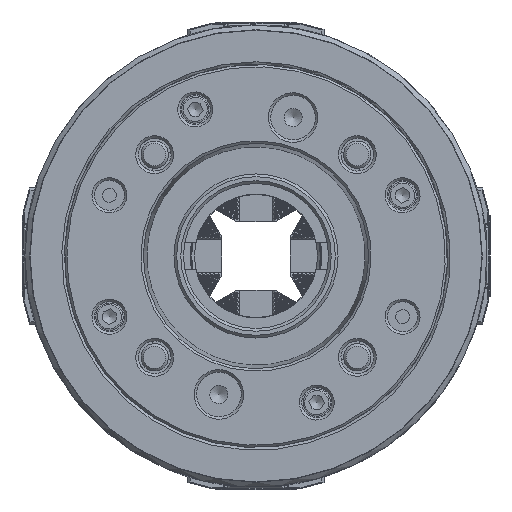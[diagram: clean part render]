
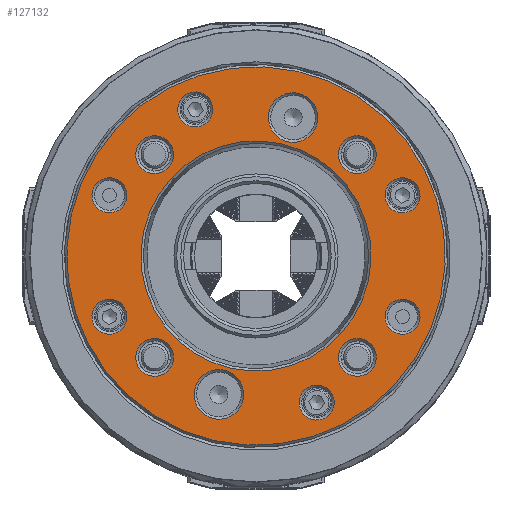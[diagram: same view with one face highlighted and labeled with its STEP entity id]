
A CAD part, front view. The second image highlights one B-rep face of the part: STEP entity #127132.
In plain terms, the highlighted planar face has unit normal (0, -1, 0).
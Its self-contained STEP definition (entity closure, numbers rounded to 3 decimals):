
#34828=PLANE('',#135431);
#37411=FACE_BOUND('',#46765,.T.);
#37412=FACE_BOUND('',#46766,.T.);
#37413=FACE_BOUND('',#46767,.T.);
#37414=FACE_BOUND('',#46768,.T.);
#37415=FACE_BOUND('',#46769,.T.);
#37416=FACE_BOUND('',#46770,.T.);
#37417=FACE_BOUND('',#46771,.T.);
#37418=FACE_BOUND('',#46772,.T.);
#37419=FACE_BOUND('',#46773,.T.);
#37420=FACE_BOUND('',#46774,.T.);
#37421=FACE_BOUND('',#46775,.T.);
#37422=FACE_BOUND('',#46776,.T.);
#37423=FACE_BOUND('',#46777,.T.);
#40354=FACE_OUTER_BOUND('',#46764,.T.);
#46764=EDGE_LOOP('',(#100680));
#46765=EDGE_LOOP('',(#100681));
#46766=EDGE_LOOP('',(#100682));
#46767=EDGE_LOOP('',(#100683));
#46768=EDGE_LOOP('',(#100684));
#46769=EDGE_LOOP('',(#100685));
#46770=EDGE_LOOP('',(#100686));
#46771=EDGE_LOOP('',(#100687));
#46772=EDGE_LOOP('',(#100688));
#46773=EDGE_LOOP('',(#100689));
#46774=EDGE_LOOP('',(#100690));
#46775=EDGE_LOOP('',(#100691));
#46776=EDGE_LOOP('',(#100692));
#46777=EDGE_LOOP('',(#100693));
#51439=CIRCLE('',#135432,69.2);
#51440=CIRCLE('',#135433,9.05);
#51441=CIRCLE('',#135434,9.05);
#51442=CIRCLE('',#135435,6.9);
#51443=CIRCLE('',#135436,6.9);
#51444=CIRCLE('',#135437,6.9);
#51445=CIRCLE('',#135438,6.9);
#51446=CIRCLE('',#135439,6.4);
#51447=CIRCLE('',#135440,6.4);
#51448=CIRCLE('',#135441,6.4);
#51449=CIRCLE('',#135442,6.4);
#51450=CIRCLE('',#135443,6.4);
#51451=CIRCLE('',#135444,6.4);
#51452=CIRCLE('',#135445,42.067);
#57699=VERTEX_POINT('',#194250);
#57700=VERTEX_POINT('',#194252);
#57701=VERTEX_POINT('',#194254);
#57702=VERTEX_POINT('',#194256);
#57703=VERTEX_POINT('',#194258);
#57704=VERTEX_POINT('',#194260);
#57705=VERTEX_POINT('',#194262);
#57706=VERTEX_POINT('',#194264);
#57707=VERTEX_POINT('',#194266);
#57708=VERTEX_POINT('',#194268);
#57709=VERTEX_POINT('',#194270);
#57710=VERTEX_POINT('',#194272);
#57711=VERTEX_POINT('',#194274);
#57712=VERTEX_POINT('',#194276);
#73254=EDGE_CURVE('',#57699,#57699,#51439,.T.);
#73255=EDGE_CURVE('',#57700,#57700,#51440,.T.);
#73256=EDGE_CURVE('',#57701,#57701,#51441,.T.);
#73257=EDGE_CURVE('',#57702,#57702,#51442,.T.);
#73258=EDGE_CURVE('',#57703,#57703,#51443,.T.);
#73259=EDGE_CURVE('',#57704,#57704,#51444,.T.);
#73260=EDGE_CURVE('',#57705,#57705,#51445,.T.);
#73261=EDGE_CURVE('',#57706,#57706,#51446,.T.);
#73262=EDGE_CURVE('',#57707,#57707,#51447,.T.);
#73263=EDGE_CURVE('',#57708,#57708,#51448,.T.);
#73264=EDGE_CURVE('',#57709,#57709,#51449,.T.);
#73265=EDGE_CURVE('',#57710,#57710,#51450,.T.);
#73266=EDGE_CURVE('',#57711,#57711,#51451,.T.);
#73267=EDGE_CURVE('',#57712,#57712,#51452,.T.);
#100680=ORIENTED_EDGE('',*,*,#73254,.T.);
#100681=ORIENTED_EDGE('',*,*,#73255,.T.);
#100682=ORIENTED_EDGE('',*,*,#73256,.T.);
#100683=ORIENTED_EDGE('',*,*,#73257,.T.);
#100684=ORIENTED_EDGE('',*,*,#73258,.T.);
#100685=ORIENTED_EDGE('',*,*,#73259,.T.);
#100686=ORIENTED_EDGE('',*,*,#73260,.T.);
#100687=ORIENTED_EDGE('',*,*,#73261,.T.);
#100688=ORIENTED_EDGE('',*,*,#73262,.T.);
#100689=ORIENTED_EDGE('',*,*,#73263,.T.);
#100690=ORIENTED_EDGE('',*,*,#73264,.T.);
#100691=ORIENTED_EDGE('',*,*,#73265,.T.);
#100692=ORIENTED_EDGE('',*,*,#73266,.T.);
#100693=ORIENTED_EDGE('',*,*,#73267,.T.);
#127132=ADVANCED_FACE('',(#40354,#37411,#37412,#37413,#37414,#37415,#37416,
#37417,#37418,#37419,#37420,#37421,#37422,#37423),#34828,.T.);
#135431=AXIS2_PLACEMENT_3D('',#194249,#156250,#156251);
#135432=AXIS2_PLACEMENT_3D('',#194251,#156252,#156253);
#135433=AXIS2_PLACEMENT_3D('',#194253,#156254,#156255);
#135434=AXIS2_PLACEMENT_3D('',#194255,#156256,#156257);
#135435=AXIS2_PLACEMENT_3D('',#194257,#156258,#156259);
#135436=AXIS2_PLACEMENT_3D('',#194259,#156260,#156261);
#135437=AXIS2_PLACEMENT_3D('',#194261,#156262,#156263);
#135438=AXIS2_PLACEMENT_3D('',#194263,#156264,#156265);
#135439=AXIS2_PLACEMENT_3D('',#194265,#156266,#156267);
#135440=AXIS2_PLACEMENT_3D('',#194267,#156268,#156269);
#135441=AXIS2_PLACEMENT_3D('',#194269,#156270,#156271);
#135442=AXIS2_PLACEMENT_3D('',#194271,#156272,#156273);
#135443=AXIS2_PLACEMENT_3D('',#194273,#156274,#156275);
#135444=AXIS2_PLACEMENT_3D('',#194275,#156276,#156277);
#135445=AXIS2_PLACEMENT_3D('',#194277,#156278,#156279);
#156250=DIRECTION('center_axis',(0.,-1.,0.));
#156251=DIRECTION('ref_axis',(-0.924,0.,
0.383));
#156252=DIRECTION('center_axis',(0.,-1.,0.));
#156253=DIRECTION('ref_axis',(0.383,0.,0.924));
#156254=DIRECTION('center_axis',(0.,1.,0.));
#156255=DIRECTION('ref_axis',(-0.383,0.,-0.924));
#156256=DIRECTION('center_axis',(0.,1.,0.));
#156257=DIRECTION('ref_axis',(0.383,0.,0.924));
#156258=DIRECTION('center_axis',(0.,1.,0.));
#156259=DIRECTION('ref_axis',(-0.924,0.,
0.383));
#156260=DIRECTION('center_axis',(0.,1.,0.));
#156261=DIRECTION('ref_axis',(-0.383,0.,-0.924));
#156262=DIRECTION('center_axis',(0.,1.,0.));
#156263=DIRECTION('ref_axis',(0.924,0.,-0.383));
#156264=DIRECTION('center_axis',(0.,1.,0.));
#156265=DIRECTION('ref_axis',(0.383,0.,0.924));
#156266=DIRECTION('center_axis',(0.,1.,0.));
#156267=DIRECTION('ref_axis',(-0.383,0.,-0.924));
#156268=DIRECTION('center_axis',(0.,1.,0.));
#156269=DIRECTION('ref_axis',(0.383,0.,0.924));
#156270=DIRECTION('center_axis',(0.,1.,0.));
#156271=DIRECTION('ref_axis',(-0.924,0.,
0.383));
#156272=DIRECTION('center_axis',(0.,1.,0.));
#156273=DIRECTION('ref_axis',(-0.383,0.,-0.924));
#156274=DIRECTION('center_axis',(0.,1.,0.));
#156275=DIRECTION('ref_axis',(0.924,0.,-0.383));
#156276=DIRECTION('center_axis',(0.,1.,0.));
#156277=DIRECTION('ref_axis',(0.383,0.,0.924));
#156278=DIRECTION('center_axis',(0.,1.,0.));
#156279=DIRECTION('ref_axis',(0.383,0.,0.924));
#194249=CARTESIAN_POINT('Origin',(-26.788,-10.,-64.672));
#194250=CARTESIAN_POINT('',(-26.482,-10.,-63.932));
#194251=CARTESIAN_POINT('Origin',(0.,-10.,0.));
#194252=CARTESIAN_POINT('',(17.025,-10.,58.976));
#194253=CARTESIAN_POINT('Origin',(13.562,-10.,50.615));
#194254=CARTESIAN_POINT('',(-17.025,-10.,-58.976));
#194255=CARTESIAN_POINT('Origin',(-13.562,-10.,-50.615));
#194256=CARTESIAN_POINT('',(-30.678,-10.,-39.693));
#194257=CARTESIAN_POINT('Origin',(-37.052,-10.,-37.052));
#194258=CARTESIAN_POINT('',(39.693,-10.,-30.678));
#194259=CARTESIAN_POINT('Origin',(37.052,-10.,-37.052));
#194260=CARTESIAN_POINT('',(30.678,-10.,39.693));
#194261=CARTESIAN_POINT('Origin',(37.052,-10.,37.052));
#194262=CARTESIAN_POINT('',(-39.693,-10.,30.678));
#194263=CARTESIAN_POINT('Origin',(-37.052,-10.,37.052));
#194264=CARTESIAN_POINT('',(-51.136,-10.,28.108));
#194265=CARTESIAN_POINT('Origin',(-53.585,-10.,22.196));
#194266=CARTESIAN_POINT('',(51.136,-10.,-28.108));
#194267=CARTESIAN_POINT('Origin',(53.585,-10.,-22.196));
#194268=CARTESIAN_POINT('',(-47.672,-10.,-24.645));
#194269=CARTESIAN_POINT('Origin',(-53.585,-10.,-22.196));
#194270=CARTESIAN_POINT('',(24.645,-10.,-47.672));
#194271=CARTESIAN_POINT('Origin',(22.196,-10.,-53.585));
#194272=CARTESIAN_POINT('',(47.672,-10.,24.645));
#194273=CARTESIAN_POINT('Origin',(53.585,-10.,22.196));
#194274=CARTESIAN_POINT('',(-24.645,-10.,47.672));
#194275=CARTESIAN_POINT('Origin',(-22.196,-10.,53.585));
#194276=CARTESIAN_POINT('',(-16.098,-10.,-38.865));
#194277=CARTESIAN_POINT('Origin',(0.,-10.,0.));
